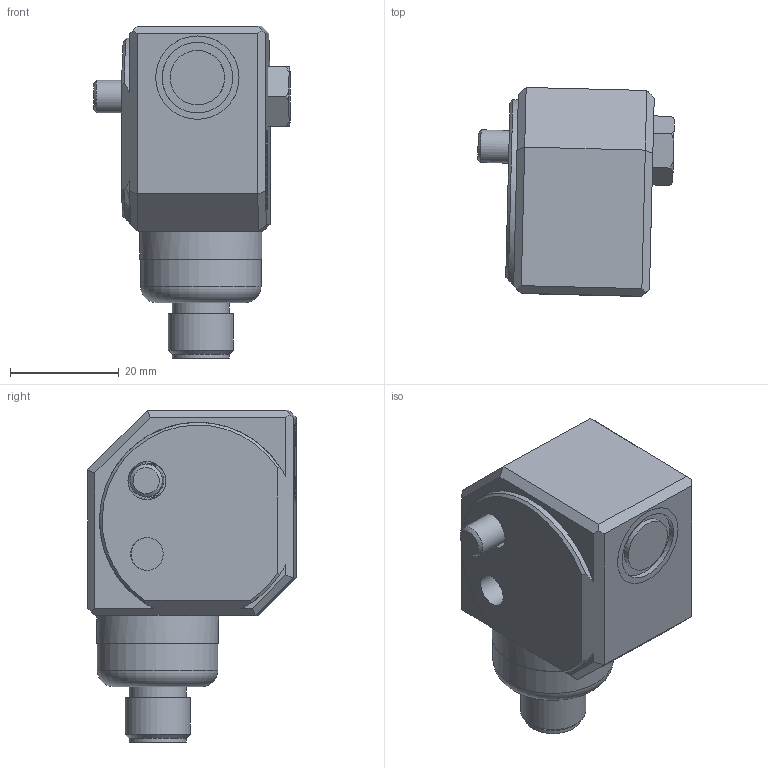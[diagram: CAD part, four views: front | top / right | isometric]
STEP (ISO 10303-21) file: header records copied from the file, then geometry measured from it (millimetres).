
FILE_DESCRIPTION(/* description */ (''),/* implementation_level */ '2;1');
FILE_NAME(/* name */ 'Z:\Engineering\Drawings\3D Library\Assemblies\HS-173XXX5406.stp',/* time_stamp */ '2023-03-25T20:30:23+00:00',/* author */ ('Ricardo.Peneda'),/* organization */ (''),/* preprocessor_version */ 'ST-DEVELOPER v18.1',/* originating_system */ 'Autodesk Inventor 2021',/* authorisation */ '');
FILE_SCHEMA (('AUTOMOTIVE_DESIGN { 1 0 10303 214 3 1 1 }'));
Length unit declared in the file: inch
Products named in the file (1): HS-173XXX5406_Shrinkwrap_1
Bounding box: 36.19 x 38.44 x 61.09 mm (x, y, z)
Volume: 27778.9 mm3; surface area: 14412 mm2
Topology: 5 solids, 5 shells, 102 faces, 251 edges, 179 vertices
Faces by surface type: plane 60, cylinder 28, cone 13, torus 1
Full cylindrical faces by diameter (mm): 4.5 x1, 6 x3, 7 x1, 9.4 x2, 10 x2, 10.496 x1, 10.5 x1, 12 x1, 13 x2, 14.95 x3, 15.34 x2, 15.35 x2, 18 x1, 19.95 x1, 20.23 x1, 22.2 x1, 22.43 x1
Entity records: 3252 total; most frequent: DIRECTION 569, CARTESIAN_POINT 565, ORIENTED_EDGE 502, EDGE_CURVE 251, AXIS2_PLACEMENT_3D 231, VERTEX_POINT 179, EDGE_LOOP 124, CIRCLE 122
